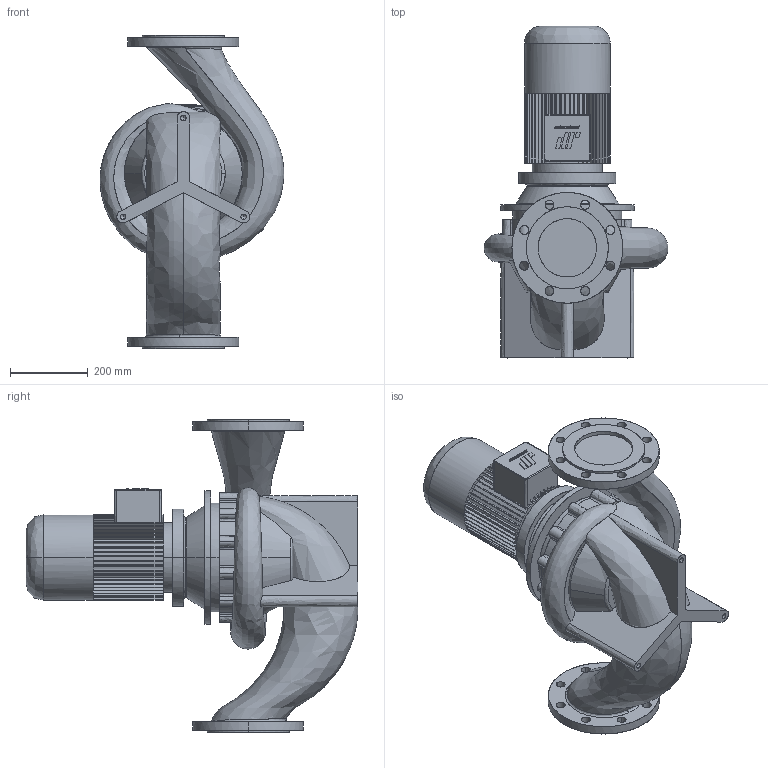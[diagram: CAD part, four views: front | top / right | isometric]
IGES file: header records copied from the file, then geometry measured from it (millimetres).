
Start section: CombiLine
Global section: file name: CLB_125A-250_IEC112M_ND10.igs; native system:  By UGS Corp.; preprocessor: XPlus GENERIC/IGES 3.0; author: Stageplaats; organization: Johnson Pump Water B.V.; date: 20070718.095614; units: millimetre
Bounding box: 473.11 x 853.5 x 805 mm (x, y, z)
Surface area: 1930109.6 mm2 (no closed solid volume)
Topology: 0 solids, 0 shells, 588 faces, 3602 edges, 3596 vertices
Faces by surface type: bspline 588
